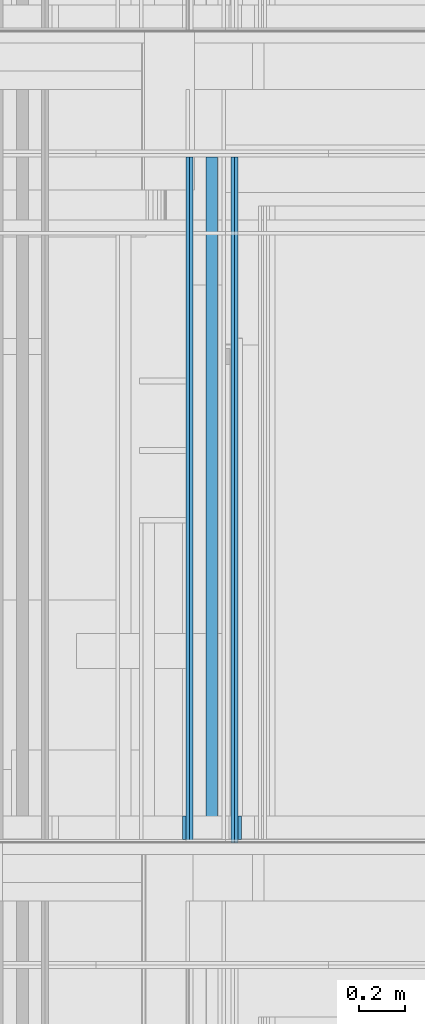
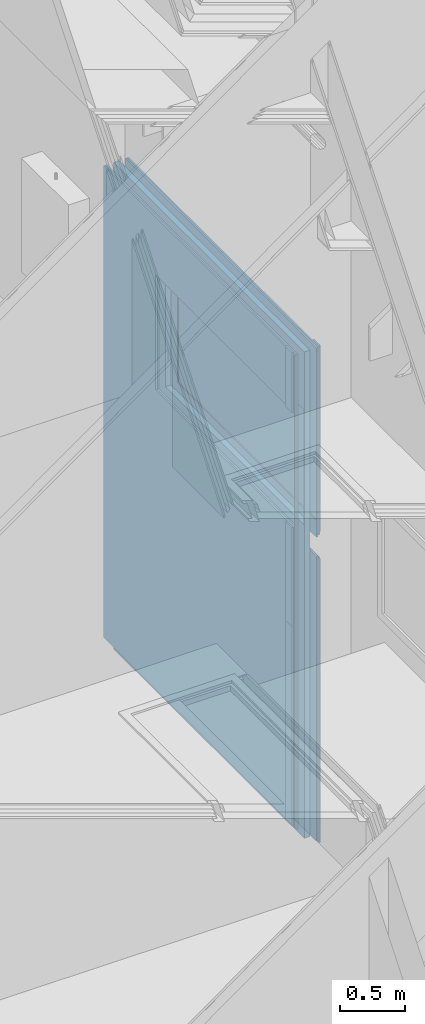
# One storey, part 72 of 583: 11 building element parts, 1 opening, 1 element without a shape of its own.
"""IFC2X3 building model written with IfcOpenShell, lengths in metres."""

from ifc_helpers import new_model, entity, si_unit, converted_unit, derived_unit, money_unit, direction, frame, frame_2d, origin_with_axes, place, context, subcontext, project, spatial, polyline, rectangle, outline, extrude, material, type_object, element, aggregate, save


model = new_model("IFC2X3")

# Units and contexts
model_context = context("Model", 3, precision=1e-05, world=origin_with_axes(), true_north=direction((0.0, 1.0)))
body_context = subcontext(model_context, "Body", "Model", "MODEL_VIEW", scale=1.0)
ifc_project = project(units=[si_unit("LENGTHUNIT", "METRE"), si_unit("AREAUNIT", "SQUARE_METRE"), si_unit("VOLUMEUNIT", "CUBIC_METRE"), si_unit("ABSORBEDDOSEUNIT", "GRAY"), si_unit("AMOUNTOFSUBSTANCEUNIT", "MOLE"), si_unit("DOSEEQUIVALENTUNIT", "SIEVERT"), si_unit("ELECTRICCAPACITANCEUNIT", "FARAD"), si_unit("ELECTRICCHARGEUNIT", "COULOMB"), si_unit("ELECTRICCONDUCTANCEUNIT", "SIEMENS"), si_unit("ELECTRICCURRENTUNIT", "AMPERE"), si_unit("ELECTRICRESISTANCEUNIT", "OHM"), si_unit("ELECTRICVOLTAGEUNIT", "VOLT"), si_unit("ENERGYUNIT", "JOULE"), si_unit("FORCEUNIT", "NEWTON"), si_unit("FREQUENCYUNIT", "HERTZ"), si_unit("ILLUMINANCEUNIT", "LUX"), si_unit("INDUCTANCEUNIT", "HENRY"), si_unit("LUMINOUSFLUXUNIT", "LUMEN"), si_unit("LUMINOUSINTENSITYUNIT", "CANDELA"), si_unit("MAGNETICFLUXDENSITYUNIT", "TESLA"), si_unit("MAGNETICFLUXUNIT", "WEBER"), si_unit("MASSUNIT", "GRAM"), converted_unit("PLANEANGLEUNIT", "degree", entity("IfcReal", 0.0174532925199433), si_unit("PLANEANGLEUNIT", "RADIAN"), dimensions=[0, 0, 0, 0, 0, 0, 0]), si_unit("POWERUNIT", "WATT"), si_unit("PRESSUREUNIT", "PASCAL"), si_unit("RADIOACTIVITYUNIT", "BECQUEREL"), si_unit("SOLIDANGLEUNIT", "STERADIAN"), si_unit("THERMODYNAMICTEMPERATUREUNIT", "KELVIN"), si_unit("TIMEUNIT", "SECOND"), derived_unit("ACCELERATIONUNIT", [(si_unit("LENGTHUNIT", "METRE"), 1), (si_unit("TIMEUNIT", "SECOND"), -2)]), derived_unit("ANGULARVELOCITYUNIT", [(converted_unit("PLANEANGLEUNIT", "degree", entity("IfcReal", 0.0174532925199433), si_unit("PLANEANGLEUNIT", "RADIAN"), dimensions=[0, 0, 0, 0, 0, 0, 0]), 1), (si_unit("TIMEUNIT", "SECOND"), -1)]), derived_unit("CURVATUREUNIT", [(converted_unit("PLANEANGLEUNIT", "degree", entity("IfcReal", 0.0174532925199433), si_unit("PLANEANGLEUNIT", "RADIAN"), dimensions=[0, 0, 0, 0, 0, 0, 0]), 1), (si_unit("LENGTHUNIT", "METRE"), -1)]), derived_unit("DYNAMICVISCOSITYUNIT", [(si_unit("PRESSUREUNIT", "PASCAL"), 1), (si_unit("TIMEUNIT", "SECOND"), 1)]), derived_unit("HEATFLUXDENSITYUNIT", [(si_unit("POWERUNIT", "WATT"), 1), (si_unit("LENGTHUNIT", "METRE"), -2)]), derived_unit("HEATINGVALUEUNIT", [(si_unit("ENERGYUNIT", "JOULE"), 1), (si_unit("MASSUNIT", "GRAM"), -1)]), derived_unit("INTEGERCOUNTRATEUNIT", [(si_unit("TIMEUNIT", "SECOND"), -1)]), derived_unit("IONCONCENTRATIONUNIT", [(si_unit("MASSUNIT", "GRAM"), 1), (si_unit("VOLUMEUNIT", "CUBIC_METRE"), -1)]), derived_unit("ISOTHERMALMOISTURECAPACITYUNIT", [(si_unit("VOLUMEUNIT", "CUBIC_METRE"), 1), (si_unit("MASSUNIT", "GRAM"), -1)]), derived_unit("KINEMATICVISCOSITYUNIT", [(si_unit("AREAUNIT", "SQUARE_METRE"), 1), (si_unit("TIMEUNIT", "SECOND"), -1)]), derived_unit("LINEARFORCEUNIT", [(si_unit("FORCEUNIT", "NEWTON"), 1), (si_unit("LENGTHUNIT", "METRE"), -1)]), derived_unit("LINEARMOMENTUNIT", [(si_unit("FORCEUNIT", "NEWTON"), 1), (si_unit("LENGTHUNIT", "METRE"), -1)]), derived_unit("LINEARSTIFFNESSUNIT", [(si_unit("FORCEUNIT", "NEWTON"), 1), (si_unit("LENGTHUNIT", "METRE"), -1)]), derived_unit("LINEARVELOCITYUNIT", [(si_unit("LENGTHUNIT", "METRE"), 1), (si_unit("TIMEUNIT", "SECOND"), -1)]), derived_unit("LUMINOUSINTENSITYDISTRIBUTIONUNIT", [(si_unit("LUMINOUSINTENSITYUNIT", "CANDELA"), 1), (si_unit("LUMINOUSFLUXUNIT", "LUMEN"), -1)]), derived_unit("MASSDENSITYUNIT", [(si_unit("MASSUNIT", "GRAM"), 1), (si_unit("VOLUMEUNIT", "CUBIC_METRE"), -1)]), derived_unit("MASSFLOWRATEUNIT", [(si_unit("MASSUNIT", "GRAM"), 1), (si_unit("TIMEUNIT", "SECOND"), -1)]), derived_unit("MASSPERLENGTHUNIT", [(si_unit("MASSUNIT", "GRAM"), 1), (si_unit("LENGTHUNIT", "METRE"), -1)]), derived_unit("MODULUSOFELASTICITYUNIT", [(si_unit("FORCEUNIT", "NEWTON"), 1), (si_unit("AREAUNIT", "SQUARE_METRE"), -1)]), derived_unit("MODULUSOFLINEARSUBGRADEREACTIONUNIT", [(si_unit("FORCEUNIT", "NEWTON"), 1), (si_unit("LENGTHUNIT", "METRE"), -2)]), derived_unit("MODULUSOFROTATIONALSUBGRADEREACTIONUNIT", [(si_unit("FORCEUNIT", "NEWTON"), 1), (si_unit("LENGTHUNIT", "METRE"), 1)]), derived_unit("MODULUSOFSUBGRADEREACTIONUNIT", [(si_unit("FORCEUNIT", "NEWTON"), 1), (si_unit("VOLUMEUNIT", "CUBIC_METRE"), -1)]), derived_unit("MOISTUREDIFFUSIVITYUNIT", [(si_unit("VOLUMEUNIT", "CUBIC_METRE"), 1), (si_unit("TIMEUNIT", "SECOND"), -1)]), derived_unit("MOLECULARWEIGHTUNIT", [(si_unit("MASSUNIT", "GRAM"), 1), (si_unit("AMOUNTOFSUBSTANCEUNIT", "MOLE"), -1)]), derived_unit("PLANARFORCEUNIT", [(si_unit("FORCEUNIT", "NEWTON"), 1), (si_unit("LENGTHUNIT", "METRE"), -2)]), derived_unit("ROTATIONALFREQUENCYUNIT", [(si_unit("TIMEUNIT", "SECOND"), -1)]), derived_unit("ROTATIONALMASSUNIT", [(si_unit("MASSUNIT", "GRAM"), 1), (si_unit("LENGTHUNIT", "METRE"), 2)]), derived_unit("ROTATIONALSTIFFNESSUNIT", [(si_unit("FORCEUNIT", "NEWTON"), 1), (si_unit("LENGTHUNIT", "METRE"), 1), (converted_unit("PLANEANGLEUNIT", "degree", entity("IfcReal", 0.0174532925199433), si_unit("PLANEANGLEUNIT", "RADIAN"), dimensions=[0, 0, 0, 0, 0, 0, 0]), -1)]), derived_unit("SECTIONAREAINTEGRALUNIT", [(si_unit("LENGTHUNIT", "METRE"), 5)]), derived_unit("SECTIONMODULUSUNIT", [(si_unit("LENGTHUNIT", "METRE"), 3)]), derived_unit("SHEARMODULUSUNIT", [(si_unit("FORCEUNIT", "NEWTON"), 1), (si_unit("AREAUNIT", "SQUARE_METRE"), -1)]), derived_unit("SOUNDPOWERUNIT", [(si_unit("ENERGYUNIT", "JOULE"), 1), (si_unit("TIMEUNIT", "SECOND"), -1)]), derived_unit("SPECIFICHEATCAPACITYUNIT", [(si_unit("FORCEUNIT", "NEWTON"), 1), (si_unit("MASSUNIT", "GRAM"), -1), (si_unit("THERMODYNAMICTEMPERATUREUNIT", "KELVIN"), -1)]), derived_unit("TEMPERATUREGRADIENTUNIT", [(si_unit("THERMODYNAMICTEMPERATUREUNIT", "KELVIN"), 1), (si_unit("LENGTHUNIT", "METRE"), -1)]), derived_unit("THERMALADMITTANCEUNIT", [(si_unit("POWERUNIT", "WATT"), 1), (si_unit("AREAUNIT", "SQUARE_METRE"), -1), (si_unit("THERMODYNAMICTEMPERATUREUNIT", "KELVIN"), -1)]), derived_unit("THERMALCONDUCTANCEUNIT", [(si_unit("POWERUNIT", "WATT"), 1), (si_unit("LENGTHUNIT", "METRE"), -1), (si_unit("THERMODYNAMICTEMPERATUREUNIT", "KELVIN"), -1)]), derived_unit("THERMALEXPANSIONCOEFFICIENTUNIT", [(si_unit("THERMODYNAMICTEMPERATUREUNIT", "KELVIN"), -1)]), derived_unit("THERMALRESISTANCEUNIT", [(si_unit("AREAUNIT", "SQUARE_METRE"), 1), (si_unit("POWERUNIT", "WATT"), -1)]), derived_unit("THERMALTRANSMITTANCEUNIT", [(si_unit("POWERUNIT", "WATT"), 1), (si_unit("AREAUNIT", "SQUARE_METRE"), -1), (si_unit("THERMODYNAMICTEMPERATUREUNIT", "KELVIN"), -1)]), derived_unit("TORQUEUNIT", [(si_unit("FORCEUNIT", "NEWTON"), 1), (si_unit("LENGTHUNIT", "METRE"), 1)]), derived_unit("VAPORPERMEABILITYUNIT", [(si_unit("MASSUNIT", "GRAM"), 1), (si_unit("TIMEUNIT", "SECOND"), -1)]), derived_unit("VOLUMETRICFLOWRATEUNIT", [(si_unit("VOLUMEUNIT", "CUBIC_METRE"), 1), (si_unit("TIMEUNIT", "SECOND"), -1)]), derived_unit("WARPINGCONSTANTUNIT", [(si_unit("LENGTHUNIT", "METRE"), 6)]), derived_unit("WARPINGMOMENTUNIT", [(si_unit("FORCEUNIT", "NEWTON"), 1), (si_unit("LENGTHUNIT", "METRE"), 2)]), money_unit("GBP")], contexts=[model_context])

# Site, building, storey
site_placement = place(None, origin_with_axes())
site = spatial("IfcSite", under=ifc_project, at=site_placement, Name="Site", CompositionType="ELEMENT")
building_placement = place(site_placement, origin_with_axes())
building = spatial("IfcBuilding", under=site, at=building_placement, Name="Building01", CompositionType="ELEMENT")
storey_placement = place(building_placement, frame((0.0, 0.0, 20.78), z_axis=(0.0, 0.0, 1.0), x_axis=(1.0, 0.0, 0.0)))
storey = spatial("IfcBuildingStorey", under=building, at=storey_placement, Name="RL", CompositionType="ELEMENT", Elevation=20.78)

# Wall, opening, building element parts
wall_type = type_object("IfcWallType", Name="SHE_A-Walls_Type01c_Partywall_225mm_twin_tall", PredefinedType="NOTDEFINED")
wall_placement = place(storey_placement, frame((5.117, 8.64, -11.72), z_axis=(0.0, 1.0, 0.0), x_axis=(0.0, 0.0, -1.0)))
wall = element("IfcWall", 1, at=wall_placement, inside=storey, type_object=wall_type, Name="1C", ObjectType="SHE_A-Walls_Type01c_Partywall_225mm_twin_tall")
opening_placement = place(wall_placement, frame((0.5455, 0.137, 0.004), z_axis=(0.0, 0.0, 1.0), x_axis=(1.0, 0.0, 0.0)))
element("IfcOpeningElement", 2, at=opening_placement, cuts=wall, Name="Opening", ObjectType="Opening", context=body_context, shape_type="SweptSolid", body=[
    extrude(rectangle(XDim=2.142, YDim=1.084, at=frame_2d((-0.542, 1.071), x_axis=(0.0, -1.0))), frame((0.0, -0.2055, 0.0), z_axis=(0.0, 1.0, 0.0), x_axis=(-1.0, 0.0, 0.0)), (0.0, 0.0, 1.0), 0.411),
])
ifc_material_1 = material(Name="A_BSUK_Insulation")
placement = place(wall_placement, origin_with_axes())
building_element_part_1 = element("IfcBuildingElementPart", 3, at=placement, material=ifc_material_1, Name="1", context=body_context, shape_type="SweptSolid", body=[
    extrude(rectangle(XDim=4.588, YDim=0.05, at=frame_2d((2.294, 0.025), x_axis=(-1.0, 0.0))), origin_with_axes(), (0.0, 0.0, 1.0), 2.95),
])
ifc_material_2 = material(Name="A_BSUK_Walls_Timber")
building_element_part_2 = element("IfcBuildingElementPart", 4, at=placement, material=ifc_material_2, Name="2", context=body_context, shape_type="SweptSolid", body=[
    extrude(outline(polyline([(4.435, 0.152), (-0.022536, 0.152), (-0.022536, 0.137), (4.45, 0.137), (4.435, 0.152)])), frame((0.0, 0.0, 0.015), z_axis=(0.0, 0.0, 1.0), x_axis=(1.0, 0.0, 0.0)), (0.0, 0.0, 1.0), 0.1),
])
ifc_material_3 = material(Name="A_BSUK_WallInternal_Finishes_Plasterboard")
building_element_part_3 = element("IfcBuildingElementPart", 5, at=placement, material=ifc_material_3, Name="3", context=body_context, shape_type="SweptSolid", body=[
    extrude(outline(polyline([(4.45, 0.137), (0.0, 0.137), (0.0, 0.122), (4.465, 0.122), (4.45, 0.137)])), origin_with_axes(), (0.0, 0.0, 1.0), 2.95),
])
building_element_part_4 = element("IfcBuildingElementPart", 6, at=placement, material=ifc_material_3, Name="4", context=body_context, shape_type="SweptSolid", body=[
    extrude(outline(polyline([(4.465, 0.122), (0.0, 0.122), (0.0, 0.107), (4.48, 0.107), (4.465, 0.122)])), origin_with_axes(), (0.0, 0.0, 1.0), 2.95),
])
building_element_part_5 = element("IfcBuildingElementPart", 7, at=placement, material=ifc_material_3, Name="5", context=body_context, shape_type="SweptSolid", body=[
    extrude(rectangle(XDim=1.785331, YDim=0.015, at=frame_2d((0.892666, -0.0655), x_axis=(-1.0, 0.0))), origin_with_axes(), (0.0, 0.0, 1.0), 2.95),
])
building_element_part_6 = element("IfcBuildingElementPart", 8, at=placement, material=ifc_material_3, Name="6", context=body_context, shape_type="SweptSolid", body=[
    extrude(rectangle(XDim=1.770331, YDim=0.015, at=frame_2d((0.885166, -0.0805), x_axis=(-1.0, 0.0))), origin_with_axes(), (0.0, 0.0, 1.0), 2.95),
])
building_element_part_7 = element("IfcBuildingElementPart", 9, at=placement, material=ifc_material_2, Name="7", context=body_context, shape_type="SweptSolid", body=[
    extrude(rectangle(XDim=1.755331, YDim=0.015, at=frame_2d((0.877666, -0.0955), x_axis=(-1.0, 0.0))), frame((0.0, 0.0, 0.015), z_axis=(0.0, 0.0, 1.0), x_axis=(1.0, 0.0, 0.0)), (0.0, 0.0, 1.0), 0.1),
])
building_element_part_8 = element("IfcBuildingElementPart", 10, at=placement, material=ifc_material_3, Name="8", context=body_context, shape_type="SweptSolid", body=[
    extrude(outline(polyline([(4.66, -0.073), (1.980331, -0.073), (1.980331, -0.088), (4.675, -0.088), (4.66, -0.073)])), origin_with_axes(), (0.0, 0.0, 1.0), 2.95),
])
building_element_part_9 = element("IfcBuildingElementPart", 11, at=placement, material=ifc_material_3, Name="9", context=body_context, shape_type="SweptSolid", body=[
    extrude(outline(polyline([(4.645, -0.058), (1.965331, -0.058), (1.965331, -0.073), (4.66, -0.073), (4.645, -0.058)])), origin_with_axes(), (0.0, 0.0, 1.0), 2.95),
])
building_element_part_10 = element("IfcBuildingElementPart", 12, at=placement, material=ifc_material_2, Name="10", context=body_context, shape_type="SweptSolid", body=[
    extrude(outline(polyline([(4.675, -0.088), (2.010331, -0.088), (2.010331, -0.103), (4.69, -0.103), (4.675, -0.088)])), frame((0.0, 0.0, 0.015), z_axis=(0.0, 0.0, 1.0), x_axis=(1.0, 0.0, 0.0)), (0.0, 0.0, 1.0), 0.1),
])
building_element_part_11 = element("IfcBuildingElementPart", 13, at=placement, material=ifc_material_2, Name="11", context=body_context, shape_type="SweptSolid", body=[
    extrude(outline(polyline([(4.435, 0.152), (2.56, 0.152), (2.56, 0.137), (4.45, 0.137), (4.435, 0.152)])), frame((0.0, 0.0, 0.015), z_axis=(0.0, 0.0, 1.0), x_axis=(1.0, 0.0, 0.0)), (0.0, 0.0, 1.0), 0.1),
])
aggregate(wall, [building_element_part_1, building_element_part_2, building_element_part_3, building_element_part_4, building_element_part_5, building_element_part_6, building_element_part_7, building_element_part_8, building_element_part_9, building_element_part_10, building_element_part_11])

save(model, "model.ifc")
